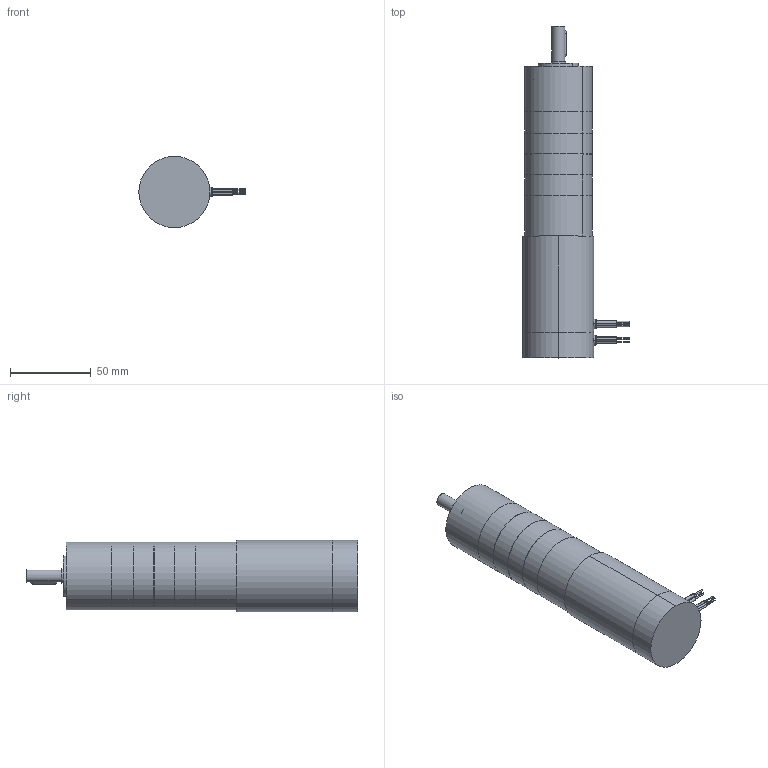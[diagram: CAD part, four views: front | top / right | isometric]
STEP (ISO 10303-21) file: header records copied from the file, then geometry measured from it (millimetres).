
FILE_DESCRIPTION (( 'STEP AP203' ), '1' );
FILE_NAME ('bl44297gp4.step', '2021-01-25T17:48:46', ( '' ), ( '' ), 'SwSTEP 2.0', 'SolidWorks 2017', '' );
FILE_SCHEMA (( 'CONFIG_CONTROL_DESIGN' ));
Length unit declared in the file: millimetre
Products named in the file (1): bl44297gp4
Bounding box: 65.82 x 205.44 x 44 mm (x, y, z)
Volume: 257312.5 mm3; surface area: 49975 mm2
Topology: 16 solids, 16 shells, 297 faces, 601 edges, 380 vertices
Faces by surface type: cylinder 144, plane 108, cone 41, torus 4
Entity records: 7897 total; most frequent: DIRECTION 1508, CARTESIAN_POINT 1327, ORIENTED_EDGE 1186, AXIS2_PLACEMENT_3D 621, EDGE_CURVE 593, VERTEX_POINT 380, EDGE_LOOP 359, CIRCLE 323
